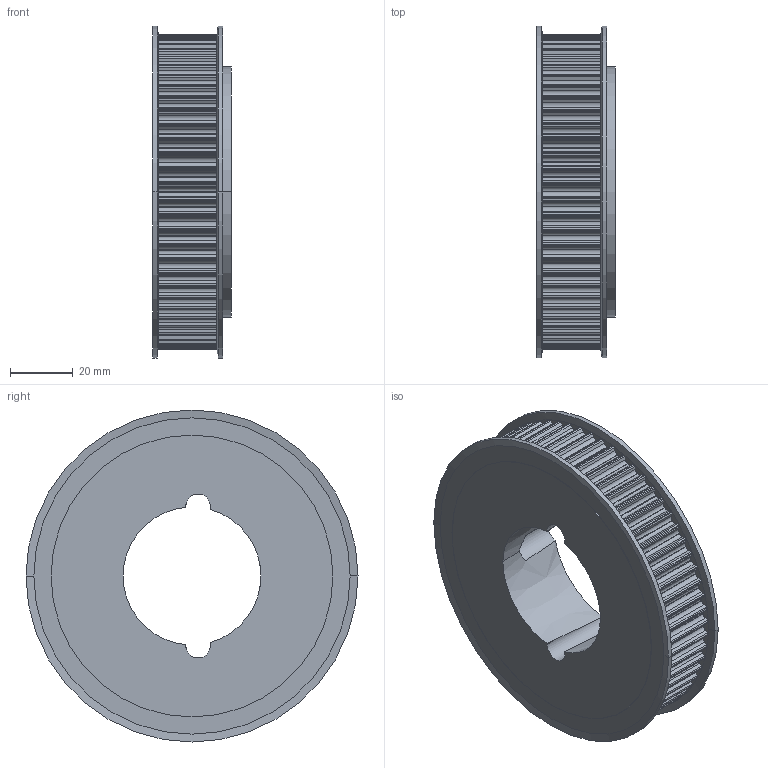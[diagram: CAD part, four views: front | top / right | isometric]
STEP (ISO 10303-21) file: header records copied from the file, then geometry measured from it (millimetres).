
FILE_DESCRIPTION( ( '' ), '1' );
FILE_NAME( 'C:/Users/Stangenbergd/Documents/CAD_Step/1/17277364.stp', '2021-10-19T10:06:35', ( '' ), ( '' ), ' ', ' ', ' ' );
FILE_SCHEMA( ( 'CONFIG_CONTROL_DESIGN' ) );
Length unit declared in the file: millimetre
Products named in the file (1): 1
Bounding box: 25.2 x 106 x 106 mm (x, y, z)
Volume: 142877.8 mm3; surface area: 30746.6 mm2
Topology: 1 solids, 1 shells, 551 faces, 1622 edges, 1078 vertices
Faces by surface type: cylinder 338, plane 199, cone 14
Entity records: 18772 total; most frequent: DIRECTION 3402, CARTESIAN_POINT 3376, ORIENTED_EDGE 3244, EDGE_CURVE 1622, AXIS2_PLACEMENT_3D 1240, VERTEX_POINT 1078, LINE 922, VECTOR 922
